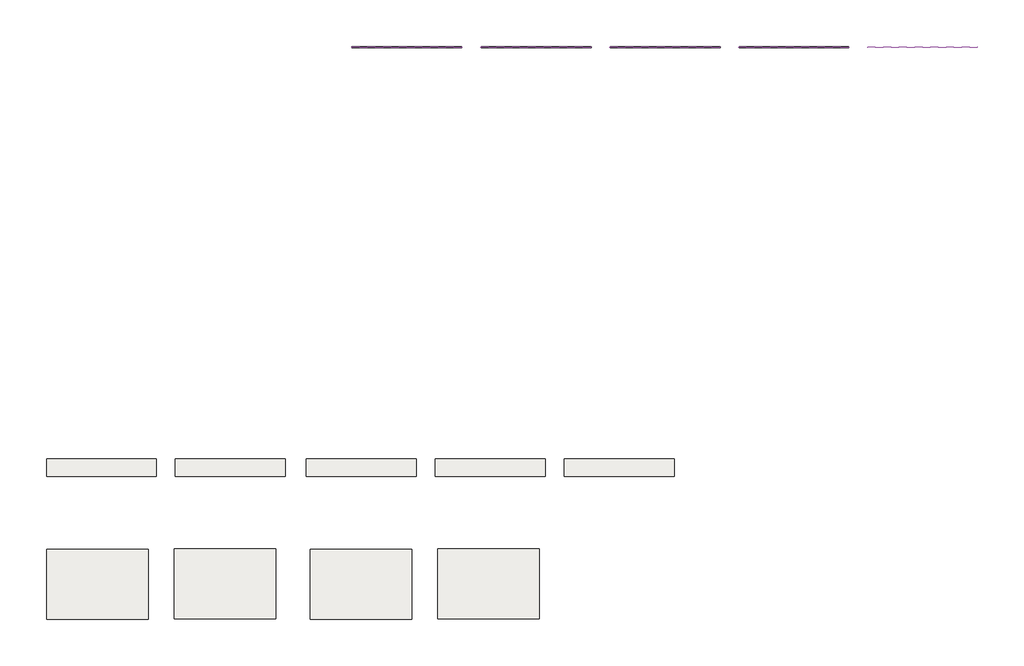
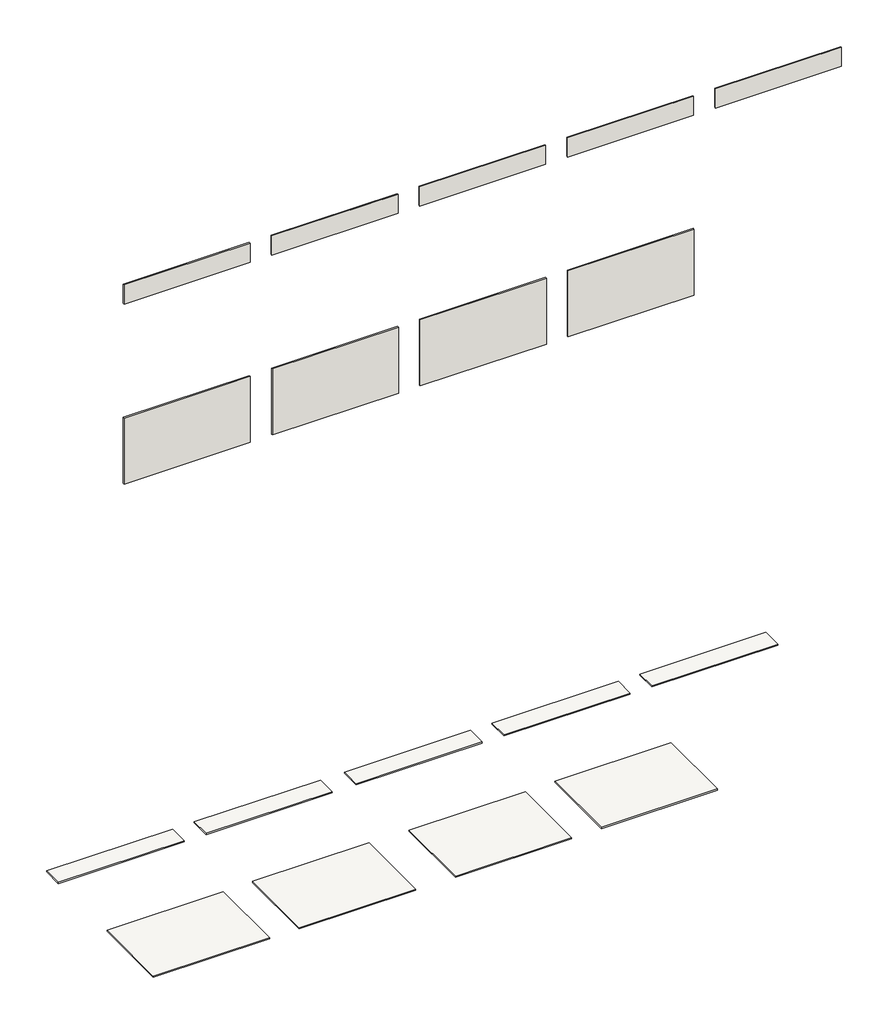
# One storey: 9 slabs, 9 walls.
"""IFC4 building model written with IfcOpenShell, lengths in millimetres."""

from ifc_helpers import new_model, si_unit, frame, origin, origin_with_axes, place, context, project, spatial, polyline, outline, extrude, element, save

model = new_model("IFC4")

# Units and contexts
model_context = context("Model", 3, world=origin())
ifc_project = project(units=[si_unit("LENGTHUNIT", "METRE", prefix="MILLI")], contexts=[model_context])

# Site, building, storey
site = spatial("IfcSite", under=ifc_project)
building = spatial("IfcBuilding", under=site)
storey = spatial("IfcBuildingStorey", under=building, Name="WORLD WOODS FLOOR TILES", Elevation=0.0)

# Slabs
placement = place(None, origin())
element("IfcSlab", 1, ObjectType="VIVES NORDLAND-R BEIGE 19.2x119.3", at=placement, inside=storey, context=model_context, shape_type="SweptSolid", body=[
    extrude(outline(polyline([(-1340.4268804, -3857.4021288), (-1340.4268804, -4049.4021288), (-2533.4268804, -4049.4021288), (-2533.4268804, -3857.4021288), (-1340.4268804, -3857.4021288)])), frame((0.0, 0.0, -11.0), z_axis=(0.0, 0.0, 1.0), x_axis=(1.0, 0.0, 0.0)), (0.0, 0.0, 1.0), 11.0),
])
element("IfcSlab", 2, ObjectType="VIVES FREMONT-R NATURAL 19.2x119.3", at=placement, inside=storey, context=model_context, shape_type="SweptSolid", body=[
    extrude(outline(polyline([(59.5731196, -3857.4021288), (59.5731196, -4049.4021288), (-1133.4268804, -4049.4021288), (-1133.4268804, -3857.4021288), (59.5731196, -3857.4021288)])), frame((0.0, 0.0, -11.0), z_axis=(0.0, 0.0, 1.0), x_axis=(1.0, 0.0, 0.0)), (0.0, 0.0, 1.0), 11.0),
])
element("IfcSlab", 3, ObjectType="VIVES VENETO-R CANELA 19.2x119.3", at=placement, inside=storey, context=model_context, shape_type="SweptSolid", body=[
    extrude(outline(polyline([(1479.5731196, -3857.4021288), (1479.5731196, -4049.4021288), (286.5731196, -4049.4021288), (286.5731196, -3857.4021288), (1479.5731196, -3857.4021288)])), frame((0.0, 0.0, -11.0), z_axis=(0.0, 0.0, 1.0), x_axis=(1.0, 0.0, 0.0)), (0.0, 0.0, 1.0), 11.0),
])
element("IfcSlab", 4, ObjectType="VIVES OKINAWA-R CARBON 19.2x119.3", at=placement, inside=storey, context=model_context, shape_type="SweptSolid", body=[
    extrude(outline(polyline([(2879.5731196, -3857.4021288), (2879.5731196, -4049.4021288), (1686.5731196, -4049.4021288), (1686.5731196, -3857.4021288), (2879.5731196, -3857.4021288)])), frame((0.0, 0.0, -11.0), z_axis=(0.0, 0.0, 1.0), x_axis=(1.0, 0.0, 0.0)), (0.0, 0.0, 1.0), 11.0),
])
element("IfcSlab", 5, ObjectType="VIVES NAMIBE-R 19.2x119.3", at=placement, inside=storey, context=model_context, shape_type="SweptSolid", body=[
    extrude(outline(polyline([(4279.5731196, -3857.4021288), (4279.5731196, -4049.4021288), (3086.5731196, -4049.4021288), (3086.5731196, -3857.4021288), (4279.5731196, -3857.4021288)])), frame((0.0, 0.0, -11.0), z_axis=(0.0, 0.0, 1.0), x_axis=(1.0, 0.0, 0.0)), (0.0, 0.0, 1.0), 11.0),
])
element("IfcSlab", 6, ObjectType="VIVES ADAMANT NORDLAND BEIGE 22x38", at=placement, inside=storey, context=model_context, shape_type="SweptSolid", body=[
    extrude(outline(polyline([(-1428.8621354, -4842.110552), (-1428.8621354, -5602.110552), (-2528.8621354, -5602.110552), (-2528.8621354, -4842.110552), (-1428.8621354, -4842.110552)])), frame((0.0, 0.0, -11.0), z_axis=(0.0, 0.0, 1.0), x_axis=(1.0, 0.0, 0.0)), (0.0, 0.0, 1.0), 11.0),
])
element("IfcSlab", 7, ObjectType="VIVES ADAMANT FREMONT NATURAL 22x38", at=placement, inside=storey, context=model_context, shape_type="SweptSolid", body=[
    extrude(outline(polyline([(-44.8243488, -4835.6957957), (-44.8243488, -5595.6957957), (-1144.8243488, -5595.6957957), (-1144.8243488, -4835.6957957), (-44.8243488, -4835.6957957)])), frame((0.0, 0.0, -11.0), z_axis=(0.0, 0.0, 1.0), x_axis=(1.0, 0.0, 0.0)), (0.0, 0.0, 1.0), 11.0),
])
element("IfcSlab", 8, ObjectType="VIVES ADAMANT VENETO CANELA 22x38", at=placement, inside=storey, context=model_context, shape_type="SweptSolid", body=[
    extrude(outline(polyline([(1431.1378646, -4842.110552), (1431.1378646, -5602.110552), (331.1378646, -5602.110552), (331.1378646, -4842.110552), (1431.1378646, -4842.110552)])), frame((0.0, 0.0, -11.0), z_axis=(0.0, 0.0, 1.0), x_axis=(1.0, 0.0, 0.0)), (0.0, 0.0, 1.0), 11.0),
])
element("IfcSlab", 9, ObjectType="VIVES ADAMANT OKINAWA CARBÓN 22x38", at=placement, inside=storey, context=model_context, shape_type="SweptSolid", body=[
    extrude(outline(polyline([(2815.1756512, -4835.6957957), (2815.1756512, -5595.6957957), (1715.1756512, -5595.6957957), (1715.1756512, -4835.6957957), (2815.1756512, -4835.6957957)])), frame((0.0, 0.0, -11.0), z_axis=(0.0, 0.0, 1.0), x_axis=(1.0, 0.0, 0.0)), (0.0, 0.0, 1.0), 11.0),
])

# Walls
element("IfcWall", 10, ObjectType="VIVES NORDLAND-R BEIGE 19.2x119.3", at=placement, inside=storey, context=model_context, shape_type="SweptSolid", body=[
    extrude(outline(polyline([(1973.1498962, 611.1723362), (780.1498962, 611.1723362), (780.1498962, 622.1723362), (1973.1498962, 622.1723362), (1973.1498962, 611.1723362)])), frame((0.0, 0.0, 1800.0), z_axis=(0.0, 0.0, 1.0), x_axis=(1.0, 0.0, 0.0)), (0.0, 0.0, 1.0), 192.0),
])
element("IfcWall", 11, ObjectType="VIVES FREMONT-R NATURAL 19.2x119.3", at=placement, inside=storey, context=model_context, shape_type="SweptSolid", body=[
    extrude(outline(polyline([(3373.1498962, 611.1723362), (2180.1498962, 611.1723362), (2180.1498962, 622.1723362), (3373.1498962, 622.1723362), (3373.1498962, 611.1723362)])), frame((0.0, 0.0, 1800.0), z_axis=(0.0, 0.0, 1.0), x_axis=(1.0, 0.0, 0.0)), (0.0, 0.0, 1.0), 192.0),
])
element("IfcWall", 12, ObjectType="VIVES VENETO-R CANELA 19.2x119.3", at=placement, inside=storey, context=model_context, shape_type="SweptSolid", body=[
    extrude(outline(polyline([(4773.1498962, 611.1723362), (3580.1498962, 611.1723362), (3580.1498962, 622.1723362), (4773.1498962, 622.1723362), (4773.1498962, 611.1723362)])), frame((0.0, 0.0, 1800.0), z_axis=(0.0, 0.0, 1.0), x_axis=(1.0, 0.0, 0.0)), (0.0, 0.0, 1.0), 192.0),
])
element("IfcWall", 13, ObjectType="VIVES OKINAWA-R CARBON 19.2x119.3", at=placement, inside=storey, context=model_context, shape_type="SweptSolid", body=[
    extrude(outline(polyline([(6173.1498962, 611.1723362), (4980.1498962, 611.1723362), (4980.1498962, 622.1723362), (6173.1498962, 622.1723362), (6173.1498962, 611.1723362)])), frame((0.0, 0.0, 1800.0), z_axis=(0.0, 0.0, 1.0), x_axis=(1.0, 0.0, 0.0)), (0.0, 0.0, 1.0), 192.0),
])
element("IfcWall", 14, ObjectType="VIVES NAMIBE-R 19.2x119.3", at=placement, inside=storey, context=model_context, shape_type="SweptSolid", body=[
    extrude(outline(polyline([(7573.1498962, 611.1723362), (6380.1498962, 611.1723362), (6380.1498962, 622.1723362), (7573.1498962, 622.1723362), (7573.1498962, 611.1723362)])), frame((0.0, 0.0, 1800.0), z_axis=(0.0, 0.0, 1.0), x_axis=(1.0, 0.0, 0.0)), (0.0, 0.0, 1.0), 192.0),
])
element("IfcWall", 15, ObjectType="VIVES ADAMANT NORDLAND BEIGE 22x38", at=placement, inside=storey, context=model_context, shape_type="SweptSolid", body=[
    extrude(outline(polyline([(1973.1498962, 611.1723362), (780.1498962, 611.1723362), (780.1498962, 622.1723362), (1973.1498962, 622.1723362), (1973.1498962, 611.1723362)])), origin_with_axes(), (0.0, 0.0, 1.0), 660.0),
])
element("IfcWall", 16, ObjectType="VIVES ADAMANT FREMONT NATURAL 22x38", at=placement, inside=storey, context=model_context, shape_type="SweptSolid", body=[
    extrude(outline(polyline([(3378.1214865, 611.1723362), (2185.1214865, 611.1723362), (2185.1214865, 622.1723362), (3378.1214865, 622.1723362), (3378.1214865, 611.1723362)])), origin_with_axes(), (0.0, 0.0, 1.0), 660.0),
])
element("IfcWall", 17, ObjectType="VIVES ADAMANT VENETO CANELA 22x38", at=placement, inside=storey, context=model_context, shape_type="SweptSolid", body=[
    extrude(outline(polyline([(4778.1214865, 611.1723362), (3585.1214865, 611.1723362), (3585.1214865, 622.1723362), (4778.1214865, 622.1723362), (4778.1214865, 611.1723362)])), origin_with_axes(), (0.0, 0.0, 1.0), 660.0),
])
element("IfcWall", 18, ObjectType="VIVES ADAMANT OKINAWA CARBON 22x38", at=placement, inside=storey, context=model_context, shape_type="SweptSolid", body=[
    extrude(outline(polyline([(6178.1214865, 611.1723362), (4985.1214865, 611.1723362), (4985.1214865, 622.1723362), (6178.1214865, 622.1723362), (6178.1214865, 611.1723362)])), origin_with_axes(), (0.0, 0.0, 1.0), 660.0),
])

save(model, "model.ifc")
